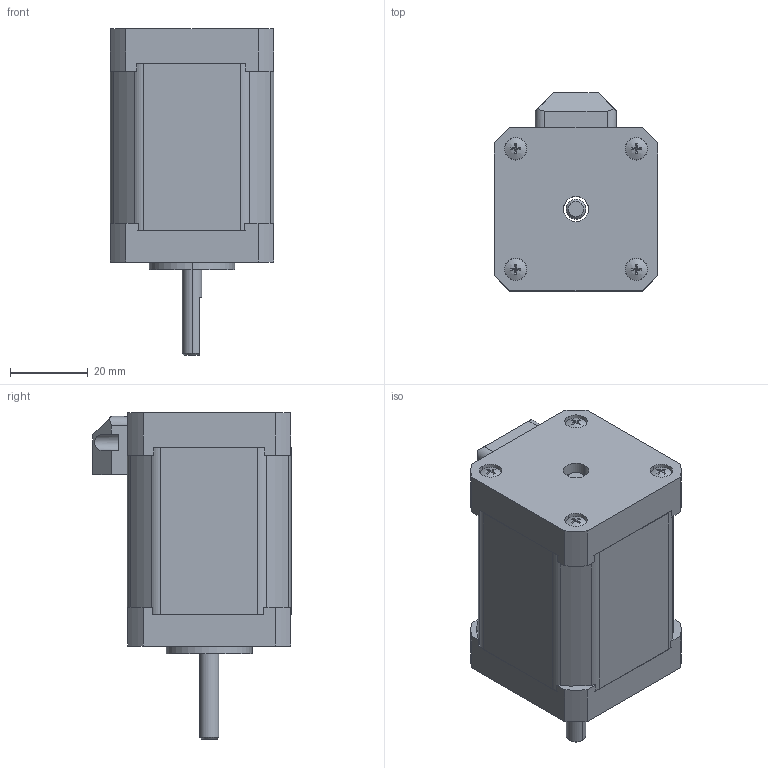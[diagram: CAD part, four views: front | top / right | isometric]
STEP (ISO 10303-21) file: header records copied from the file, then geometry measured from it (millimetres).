
FILE_DESCRIPTION (( 'STEP AP203' ), '1' );
FILE_NAME ('42CM08-1A MS20.STEP', '2021-05-06T01:28:25', ( 'Owner' ), ( 'Organization' ), 'SwSTEP 2.0', 'SolidWorks 2018', '' );
FILE_SCHEMA (( 'CONFIG_CONTROL_DESIGN' ));
Length unit declared in the file: millimetre
Products named in the file (7): 蹟隊-3; ヶ傷裔-3; 隅赽-3; 粣-3; 揤盄裔42ㄗ3D); 42CM08-1A MS20; 綴傷裔-3
Assembly tree (9 placements, depth 2):
  42CM08-1A MS20
    ヶ傷裔-3
    綴傷裔-3
    隅赽-3
    粣-3
    蹟隊-3  x4
    揤盄裔42ㄗ3D)
Bounding box: 42.13 x 50.99 x 84 mm (x, y, z)
Volume: 69894.4 mm3; surface area: 34910.1 mm2
Topology: 9 solids, 9 shells, 1940 faces, 4536 edges, 2637 vertices
Faces by surface type: cone 1642, plane 159, cylinder 127, bspline 12
Entity records: 19901 total; most frequent: DIRECTION 3630, CARTESIAN_POINT 3335, ORIENTED_EDGE 3144, EDGE_CURVE 1572, AXIS2_PLACEMENT_3D 1432, VERTEX_POINT 951, CIRCLE 773, LINE 766
